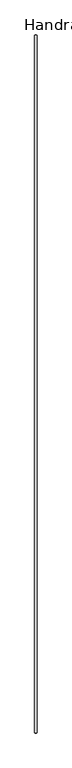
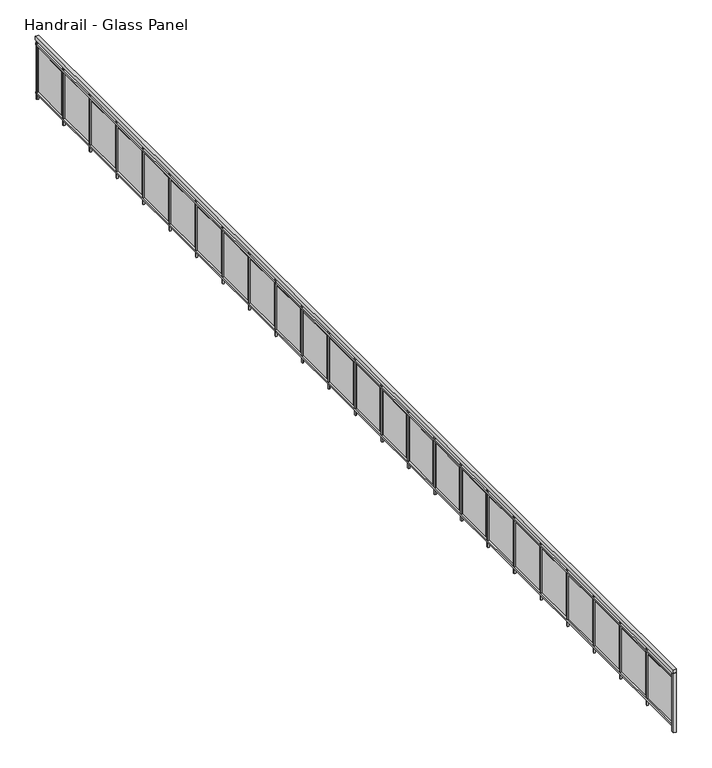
"""IFC4 building model written with IfcOpenShell, lengths in millimetres: railing geometry, Handrail - Glass Panel."""

import ifcopenshell
import ifcopenshell.guid

model = None  # the IFC model being written
_history = None  # IfcOwnerHistory: only IFC2X3 demands one
_inside = {}  # id of a spatial element -> (the spatial element, [elements in it])
_under = {}  # id of a project, library or spatial element -> (it, [spatial elements below it])
_declared = {}  # id of a project -> (the project, [libraries it declares])
_typed = {}  # id of a type object -> (the type object, [elements of that type])
_made_of = {}  # id of a material, layer set ... -> (it, [elements and type objects made of it])


def new_model(schema):
    """Start an empty IFC model of exactly this schema.

    Asked for "IFC4X3", IfcOpenShell would pick the latest addendum, in which some entities
    have other attributes; the version numbers below select the first issue.
    IFC2X3 requires an IfcOwnerHistory on every rooted entity: one is made here for all.
    """
    global model, _history
    if schema == "IFC4X3":
        model = ifcopenshell.file(schema_version=(4, 3, 0, 0))
    else:
        model = ifcopenshell.file(schema=schema)
    _inside.clear()
    _under.clear()
    _declared.clear()
    _typed.clear()
    _made_of.clear()
    _history = None
    if model.schema == "IFC2X3":
        org = make("IfcOrganization", Name="unknown")
        user = make(
            "IfcPersonAndOrganization",
            ThePerson=make("IfcPerson", FamilyName="unknown"),
            TheOrganization=org,
        )
        app = make(
            "IfcApplication",
            ApplicationDeveloper=org,
            Version="unknown",
            ApplicationFullName="unknown",
            ApplicationIdentifier="unknown",
        )
        _history = make(
            "IfcOwnerHistory",
            OwningUser=user,
            OwningApplication=app,
            ChangeAction="ADDED",
            CreationDate=0,
        )
    return model


def make(cls, **values):
    """One entity of the class cls with the attributes given. An attribute that is None is left unset."""
    return model.create_entity(
        cls, **{name: value for name, value in values.items() if value is not None}
    )


def rooted(cls, **values):
    """An entity with a GlobalId (a new one), such as an element, a storey or a relation."""
    return make(cls, GlobalId=ifcopenshell.guid.new(), OwnerHistory=_history, **values)


def si_unit(unit_type, name, prefix=None):
    """IfcSIUnit, for example si_unit("LENGTHUNIT", "METRE", prefix="MILLI")."""
    return make("IfcSIUnit", UnitType=unit_type, Prefix=prefix, Name=name)


def assignment(units):
    """IfcUnitAssignment: the units of a project."""
    return None if units is None else make("IfcUnitAssignment", Units=units)


def point(xyz):
    """IfcCartesianPoint."""
    return None if xyz is None else make("IfcCartesianPoint", Coordinates=xyz)


def direction(xyz):
    """IfcDirection."""
    return None if xyz is None else make("IfcDirection", DirectionRatios=xyz)


def frame(location, z_axis=None, x_axis=None):
    """IfcAxis2Placement3D, a coordinate frame: its origin and axes. An axis left out is left unset."""
    return make(
        "IfcAxis2Placement3D",
        Location=point(location),
        Axis=direction(z_axis),
        RefDirection=direction(x_axis),
    )


def frame_2d(location, x_axis=None):
    """IfcAxis2Placement2D, a coordinate frame in the plane: its origin and x axis."""
    return make(
        "IfcAxis2Placement2D", Location=point(location), RefDirection=direction(x_axis)
    )


def origin():
    """The frame at (0, 0, 0) with its axes left unset."""
    return frame((0.0, 0.0, 0.0))


def place(relative_to, where):
    """IfcLocalPlacement: puts the frame where relative to a parent placement (None: the world)."""
    return make(
        "IfcLocalPlacement", PlacementRelTo=relative_to, RelativePlacement=where
    )


def context(
    kind, dimensions, precision=None, world=None, true_north=None, identifier=None
):
    """IfcGeometricRepresentationContext, for example the 3D "Model" context."""
    return make(
        "IfcGeometricRepresentationContext",
        ContextIdentifier=identifier,
        ContextType=kind,
        CoordinateSpaceDimension=dimensions,
        Precision=precision,
        WorldCoordinateSystem=world,
        TrueNorth=true_north,
    )


def project(units=None, contexts=None):
    """IfcProject with its units and contexts."""
    return rooted(
        "IfcProject",
        Name="project",
        RepresentationContexts=contexts,
        UnitsInContext=assignment(units),
    )


def spatial(cls, under=None, at=None, **own):
    """A site, building, storey or space (cls), placed at a placement, below another one or the project."""
    s = rooted(cls, ObjectPlacement=at, **own)
    if under is not None:
        _under.setdefault(under.id(), (under, []))[1].append(s)
    return s


def polyline(points):
    """IfcPolyline through the points."""
    return make("IfcPolyline", Points=[point(p) for p in points])


def circle_curve(where, radius):
    """IfcCircle in the frame where."""
    return make("IfcCircle", Position=where, Radius=radius)


def trimmed(basis, trim1, trim2, sense, master):
    """IfcTrimmedCurve: the piece of a basis curve between two trims."""
    return make(
        "IfcTrimmedCurve",
        BasisCurve=basis,
        Trim1=trim1,
        Trim2=trim2,
        SenseAgreement=sense,
        MasterRepresentation=master,
    )


def segment(curve, same_sense, transition):
    """IfcCompositeCurveSegment."""
    return make(
        "IfcCompositeCurveSegment",
        Transition=transition,
        SameSense=same_sense,
        ParentCurve=curve,
    )


def composite_curve(segments, self_intersect=None):
    """IfcCompositeCurve: segments joined end to end."""
    return make("IfcCompositeCurve", Segments=segments, SelfIntersect=self_intersect)


def outline(outer, holes=None, kind="AREA"):
    """IfcArbitraryClosedProfileDef: a profile drawn as a closed curve; with holes, ...WithVoids."""
    if holes is None:
        return make("IfcArbitraryClosedProfileDef", ProfileType=kind, OuterCurve=outer)
    return make(
        "IfcArbitraryProfileDefWithVoids",
        ProfileType=kind,
        OuterCurve=outer,
        InnerCurves=holes,
    )


def extrude(swept, where, along, depth):
    """IfcExtrudedAreaSolid: the profile swept, set in the frame where, extruded along a direction by depth."""
    return make(
        "IfcExtrudedAreaSolid",
        SweptArea=swept,
        Position=where,
        ExtrudedDirection=direction(along),
        Depth=depth,
    )


def shape(context_of_items, identifier, shape_type, items):
    """IfcShapeRepresentation: the items that make up one representation, for example the "Body"."""
    return make(
        "IfcShapeRepresentation",
        ContextOfItems=context_of_items,
        RepresentationIdentifier=identifier,
        RepresentationType=shape_type,
        Items=items,
    )


def source(mapping_origin, context_of_items, identifier, shape_type, items):
    """IfcRepresentationMap: a shape defined once, which mapped items show again and again."""
    return make(
        "IfcRepresentationMap",
        MappingOrigin=mapping_origin,
        MappedRepresentation=shape(context_of_items, identifier, shape_type, items),
    )


def transform(
    local_origin,
    x_axis=None,
    y_axis=None,
    z_axis=None,
    scale=None,
    scale2=None,
    scale3=None,
    uniform=True,
):
    """IfcCartesianTransformationOperator3D, or its non-uniform kind. x_axis, y_axis, z_axis: its Axis1, 2, 3."""
    if uniform:
        return make(
            "IfcCartesianTransformationOperator3D",
            Axis1=direction(x_axis),
            Axis2=direction(y_axis),
            LocalOrigin=point(local_origin),
            Scale=scale,
            Axis3=direction(z_axis),
        )
    return make(
        "IfcCartesianTransformationOperator3DnonUniform",
        Axis1=direction(x_axis),
        Axis2=direction(y_axis),
        LocalOrigin=point(local_origin),
        Scale=scale,
        Axis3=direction(z_axis),
        Scale2=scale2,
        Scale3=scale3,
    )


def mapped(mapping_source, mapping_target):
    """IfcMappedItem: shows the shape of a source again, moved by a transform."""
    return make(
        "IfcMappedItem", MappingSource=mapping_source, MappingTarget=mapping_target
    )


def made_of(thing, what):
    """Note that an element or type object is made of a material, layer set ...; save() writes the relation."""
    if what is not None:
        _made_of.setdefault(what.id(), (what, []))[1].append(thing)
    return thing


def element(
    cls,
    number,
    at=None,
    inside=None,
    cuts=None,
    type_object=None,
    material=None,
    context=None,
    identifier="Body",
    shape_type=None,
    held_by="IfcProductDefinitionShape",
    body=None,
    shapes=None,
    **own,
):
    """One element of the class cls, such as IfcWall. Its Tag is "e" and its number.

    at: its placement. inside: the storey or other place that contains it. cuts: it is an
    opening in that element (IfcRelVoidsElement). A single representation is given by context,
    identifier, shape_type and body (its items); several are given by shapes. held_by: the class
    of the entity that holds the representations. save() writes the other relations.
    """
    e = rooted(cls, Tag="e%d" % number, ObjectPlacement=at, **own)
    if body is not None:
        shapes = [shape(context, identifier, shape_type, body)]
    if shapes is not None:
        e.Representation = make(held_by, Representations=shapes)
    if inside is not None:
        _inside.setdefault(inside.id(), (inside, []))[1].append(e)
    if cuts is not None:
        rooted(
            "IfcRelVoidsElement", RelatingBuildingElement=cuts, RelatedOpeningElement=e
        )
    if type_object is not None:
        _typed.setdefault(type_object.id(), (type_object, []))[1].append(e)
    return made_of(e, material)


def aggregate(whole, parts):
    """IfcRelAggregates: a whole, such as a stair, and the parts it consists of."""
    return rooted("IfcRelAggregates", RelatingObject=whole, RelatedObjects=parts)


def save(model, path):
    """Write the relations noted so far, then the file.

    IfcRelAggregates (storeys below a building ...), IfcRelContainedInSpatialStructure (elements
    in a storey), IfcRelDefinesByType, IfcRelAssociatesMaterial and IfcRelDeclares: one each for
    every whole, place, type object, material and project.
    """
    for whole, parts in _under.values():
        aggregate(whole, parts)
    for where, things in _inside.values():
        rooted(
            "IfcRelContainedInSpatialStructure",
            RelatedElements=things,
            RelatingStructure=where,
        )
    for kind, things in _typed.values():
        rooted("IfcRelDefinesByType", RelatedObjects=things, RelatingType=kind)
    for what, things in _made_of.values():
        rooted("IfcRelAssociatesMaterial", RelatedObjects=things, RelatingMaterial=what)
    for by, libraries in _declared.values():
        rooted("IfcRelDeclares", RelatingContext=by, RelatedDefinitions=libraries)
    model.write(path)


def handrail_glass_panel_251127b2(model_context):
    return source(origin(), model_context, "Body", "SweptSolid", [
        extrude(outline(polyline([(30113.2134101, -9922.6148653), (30062.4134101, -9922.6148653), (30062.4134101, 5347.3851347), (30113.2134101, 5347.3851347), (30113.2134101, -9922.6148653)])), frame((0.0, 0.0, 5513.6), z_axis=(0.0, 0.0, 1.0), x_axis=(1.0, 0.0, 0.0)), (0.0, 0.0, 1.0), 50.8),
        extrude(outline(polyline([(30100.5134101, -9922.6148653), (30075.1134101, -9922.6148653), (30075.1134101, 5347.3851347), (30100.5134101, 5347.3851347), (30100.5134101, -9922.6148653)])), frame((0.0, 0.0, 5437.4), z_axis=(0.0, 0.0, 1.0), x_axis=(1.0, 0.0, 0.0)), (0.0, 0.0, 1.0), 25.4),
        extrude(outline(polyline([(30100.5134101, -9922.6148653), (30075.1134101, -9922.6148653), (30075.1134101, 5347.3851347), (30100.5134101, 5347.3851347), (30100.5134101, -9922.6148653)])), frame((0.0, 0.0, 4726.2), z_axis=(0.0, 0.0, 1.0), x_axis=(1.0, 0.0, 0.0)), (0.0, 0.0, 1.0), 25.4),
        extrude(outline(polyline([(30097.3384101, 5322.8601347), (30078.2884101, 5322.8601347), (30078.2884101, 5341.9101347), (30097.3384101, 5341.9101347), (30097.3384101, 5322.8601347)])), frame((0.0, 0.0, 4650.0), z_axis=(0.0, 0.0, 1.0), x_axis=(1.0, 0.0, 0.0)), (0.0, 0.0, 1.0), 863.6),
        extrude(outline(polyline([(30081.4634101, 4735.4851347), (30081.4634101, 5294.2851347), (30087.8134101, 5294.2851347), (30087.8134101, 4735.4851347), (30081.4634101, 4735.4851347)])), frame((0.0, 0.0, 4777.0), z_axis=(0.0, 0.0, 1.0), x_axis=(1.0, 0.0, 0.0)), (0.0, 0.0, 1.0), 635.0),
        extrude(outline(polyline([(30097.3384101, 4687.8601347), (30078.2884101, 4687.8601347), (30078.2884101, 4706.9101347), (30097.3384101, 4706.9101347), (30097.3384101, 4687.8601347)])), frame((0.0, 0.0, 4650.0), z_axis=(0.0, 0.0, 1.0), x_axis=(1.0, 0.0, 0.0)), (0.0, 0.0, 1.0), 863.6),
        extrude(outline(polyline([(30081.4634101, 4100.4851347), (30081.4634101, 4659.2851347), (30087.8134101, 4659.2851347), (30087.8134101, 4100.4851347), (30081.4634101, 4100.4851347)])), frame((0.0, 0.0, 4777.0), z_axis=(0.0, 0.0, 1.0), x_axis=(1.0, 0.0, 0.0)), (0.0, 0.0, 1.0), 635.0),
        extrude(outline(polyline([(30097.3384101, 4052.8601347), (30078.2884101, 4052.8601347), (30078.2884101, 4071.9101347), (30097.3384101, 4071.9101347), (30097.3384101, 4052.8601347)])), frame((0.0, 0.0, 4650.0), z_axis=(0.0, 0.0, 1.0), x_axis=(1.0, 0.0, 0.0)), (0.0, 0.0, 1.0), 863.6),
        extrude(outline(polyline([(30081.4634101, 3465.4851347), (30081.4634101, 4024.2851347), (30087.8134101, 4024.2851347), (30087.8134101, 3465.4851347), (30081.4634101, 3465.4851347)])), frame((0.0, 0.0, 4777.0), z_axis=(0.0, 0.0, 1.0), x_axis=(1.0, 0.0, 0.0)), (0.0, 0.0, 1.0), 635.0),
        extrude(outline(polyline([(30097.3384101, 3417.8601347), (30078.2884101, 3417.8601347), (30078.2884101, 3436.9101347), (30097.3384101, 3436.9101347), (30097.3384101, 3417.8601347)])), frame((0.0, 0.0, 4650.0), z_axis=(0.0, 0.0, 1.0), x_axis=(1.0, 0.0, 0.0)), (0.0, 0.0, 1.0), 863.6),
        extrude(outline(polyline([(30081.4634101, 2830.4851347), (30081.4634101, 3389.2851347), (30087.8134101, 3389.2851347), (30087.8134101, 2830.4851347), (30081.4634101, 2830.4851347)])), frame((0.0, 0.0, 4777.0), z_axis=(0.0, 0.0, 1.0), x_axis=(1.0, 0.0, 0.0)), (0.0, 0.0, 1.0), 635.0),
        extrude(outline(polyline([(30097.3384101, 2782.8601347), (30078.2884101, 2782.8601347), (30078.2884101, 2801.9101347), (30097.3384101, 2801.9101347), (30097.3384101, 2782.8601347)])), frame((0.0, 0.0, 4650.0), z_axis=(0.0, 0.0, 1.0), x_axis=(1.0, 0.0, 0.0)), (0.0, 0.0, 1.0), 863.6),
        extrude(outline(polyline([(30081.4634101, 2195.4851347), (30081.4634101, 2754.2851347), (30087.8134101, 2754.2851347), (30087.8134101, 2195.4851347), (30081.4634101, 2195.4851347)])), frame((0.0, 0.0, 4777.0), z_axis=(0.0, 0.0, 1.0), x_axis=(1.0, 0.0, 0.0)), (0.0, 0.0, 1.0), 635.0),
        extrude(outline(polyline([(30097.3384101, 2147.8601347), (30078.2884101, 2147.8601347), (30078.2884101, 2166.9101347), (30097.3384101, 2166.9101347), (30097.3384101, 2147.8601347)])), frame((0.0, 0.0, 4650.0), z_axis=(0.0, 0.0, 1.0), x_axis=(1.0, 0.0, 0.0)), (0.0, 0.0, 1.0), 863.6),
        extrude(outline(polyline([(30081.4634101, 1560.4851347), (30081.4634101, 2119.2851347), (30087.8134101, 2119.2851347), (30087.8134101, 1560.4851347), (30081.4634101, 1560.4851347)])), frame((0.0, 0.0, 4777.0), z_axis=(0.0, 0.0, 1.0), x_axis=(1.0, 0.0, 0.0)), (0.0, 0.0, 1.0), 635.0),
        extrude(outline(polyline([(30097.3384101, 1512.8601347), (30078.2884101, 1512.8601347), (30078.2884101, 1531.9101347), (30097.3384101, 1531.9101347), (30097.3384101, 1512.8601347)])), frame((0.0, 0.0, 4650.0), z_axis=(0.0, 0.0, 1.0), x_axis=(1.0, 0.0, 0.0)), (0.0, 0.0, 1.0), 863.6),
        extrude(outline(polyline([(30081.4634101, 925.4851347), (30081.4634101, 1484.2851347), (30087.8134101, 1484.2851347), (30087.8134101, 925.4851347), (30081.4634101, 925.4851347)])), frame((0.0, 0.0, 4777.0), z_axis=(0.0, 0.0, 1.0), x_axis=(1.0, 0.0, 0.0)), (0.0, 0.0, 1.0), 635.0),
        extrude(outline(polyline([(30097.3384101, 877.8601347), (30078.2884101, 877.8601347), (30078.2884101, 896.9101347), (30097.3384101, 896.9101347), (30097.3384101, 877.8601347)])), frame((0.0, 0.0, 4650.0), z_axis=(0.0, 0.0, 1.0), x_axis=(1.0, 0.0, 0.0)), (0.0, 0.0, 1.0), 863.6),
        extrude(outline(polyline([(30081.4634101, 290.4851347), (30081.4634101, 849.2851347), (30087.8134101, 849.2851347), (30087.8134101, 290.4851347), (30081.4634101, 290.4851347)])), frame((0.0, 0.0, 4777.0), z_axis=(0.0, 0.0, 1.0), x_axis=(1.0, 0.0, 0.0)), (0.0, 0.0, 1.0), 635.0),
        extrude(outline(polyline([(30097.3384101, 242.8601347), (30078.2884101, 242.8601347), (30078.2884101, 261.9101347), (30097.3384101, 261.9101347), (30097.3384101, 242.8601347)])), frame((0.0, 0.0, 4650.0), z_axis=(0.0, 0.0, 1.0), x_axis=(1.0, 0.0, 0.0)), (0.0, 0.0, 1.0), 863.6),
        extrude(outline(polyline([(30081.4634101, -344.5148653), (30081.4634101, 214.2851347), (30087.8134101, 214.2851347), (30087.8134101, -344.5148653), (30081.4634101, -344.5148653)])), frame((0.0, 0.0, 4777.0), z_axis=(0.0, 0.0, 1.0), x_axis=(1.0, 0.0, 0.0)), (0.0, 0.0, 1.0), 635.0),
        extrude(outline(polyline([(30097.3384101, -392.1398653), (30078.2884101, -392.1398653), (30078.2884101, -373.0898653), (30097.3384101, -373.0898653), (30097.3384101, -392.1398653)])), frame((0.0, 0.0, 4650.0), z_axis=(0.0, 0.0, 1.0), x_axis=(1.0, 0.0, 0.0)), (0.0, 0.0, 1.0), 863.6),
        extrude(outline(polyline([(30081.4634101, -979.5148653), (30081.4634101, -420.7148653), (30087.8134101, -420.7148653), (30087.8134101, -979.5148653), (30081.4634101, -979.5148653)])), frame((0.0, 0.0, 4777.0), z_axis=(0.0, 0.0, 1.0), x_axis=(1.0, 0.0, 0.0)), (0.0, 0.0, 1.0), 635.0),
        extrude(outline(polyline([(30097.3384101, -1027.1398653), (30078.2884101, -1027.1398653), (30078.2884101, -1008.0898653), (30097.3384101, -1008.0898653), (30097.3384101, -1027.1398653)])), frame((0.0, 0.0, 4650.0), z_axis=(0.0, 0.0, 1.0), x_axis=(1.0, 0.0, 0.0)), (0.0, 0.0, 1.0), 863.6),
        extrude(outline(polyline([(30081.4634101, -1614.5148653), (30081.4634101, -1055.7148653), (30087.8134101, -1055.7148653), (30087.8134101, -1614.5148653), (30081.4634101, -1614.5148653)])), frame((0.0, 0.0, 4777.0), z_axis=(0.0, 0.0, 1.0), x_axis=(1.0, 0.0, 0.0)), (0.0, 0.0, 1.0), 635.0),
        extrude(outline(polyline([(30097.3384101, -1662.1398653), (30078.2884101, -1662.1398653), (30078.2884101, -1643.0898653), (30097.3384101, -1643.0898653), (30097.3384101, -1662.1398653)])), frame((0.0, 0.0, 4650.0), z_axis=(0.0, 0.0, 1.0), x_axis=(1.0, 0.0, 0.0)), (0.0, 0.0, 1.0), 863.6),
        extrude(outline(polyline([(30081.4634101, -2249.5148653), (30081.4634101, -1690.7148653), (30087.8134101, -1690.7148653), (30087.8134101, -2249.5148653), (30081.4634101, -2249.5148653)])), frame((0.0, 0.0, 4777.0), z_axis=(0.0, 0.0, 1.0), x_axis=(1.0, 0.0, 0.0)), (0.0, 0.0, 1.0), 635.0),
        extrude(outline(polyline([(30097.3384101, -2297.1398653), (30078.2884101, -2297.1398653), (30078.2884101, -2278.0898653), (30097.3384101, -2278.0898653), (30097.3384101, -2297.1398653)])), frame((0.0, 0.0, 4650.0), z_axis=(0.0, 0.0, 1.0), x_axis=(1.0, 0.0, 0.0)), (0.0, 0.0, 1.0), 863.6),
        extrude(outline(polyline([(30081.4634101, -2884.5148653), (30081.4634101, -2325.7148653), (30087.8134101, -2325.7148653), (30087.8134101, -2884.5148653), (30081.4634101, -2884.5148653)])), frame((0.0, 0.0, 4777.0), z_axis=(0.0, 0.0, 1.0), x_axis=(1.0, 0.0, 0.0)), (0.0, 0.0, 1.0), 635.0),
        extrude(outline(polyline([(30097.3384101, -2932.1398653), (30078.2884101, -2932.1398653), (30078.2884101, -2913.0898653), (30097.3384101, -2913.0898653), (30097.3384101, -2932.1398653)])), frame((0.0, 0.0, 4650.0), z_axis=(0.0, 0.0, 1.0), x_axis=(1.0, 0.0, 0.0)), (0.0, 0.0, 1.0), 863.6),
        extrude(outline(polyline([(30081.4634101, -3519.5148653), (30081.4634101, -2960.7148653), (30087.8134101, -2960.7148653), (30087.8134101, -3519.5148653), (30081.4634101, -3519.5148653)])), frame((0.0, 0.0, 4777.0), z_axis=(0.0, 0.0, 1.0), x_axis=(1.0, 0.0, 0.0)), (0.0, 0.0, 1.0), 635.0),
        extrude(outline(polyline([(30097.3384101, -3567.1398653), (30078.2884101, -3567.1398653), (30078.2884101, -3548.0898653), (30097.3384101, -3548.0898653), (30097.3384101, -3567.1398653)])), frame((0.0, 0.0, 4650.0), z_axis=(0.0, 0.0, 1.0), x_axis=(1.0, 0.0, 0.0)), (0.0, 0.0, 1.0), 863.6),
        extrude(outline(polyline([(30081.4634101, -4154.5148653), (30081.4634101, -3595.7148653), (30087.8134101, -3595.7148653), (30087.8134101, -4154.5148653), (30081.4634101, -4154.5148653)])), frame((0.0, 0.0, 4777.0), z_axis=(0.0, 0.0, 1.0), x_axis=(1.0, 0.0, 0.0)), (0.0, 0.0, 1.0), 635.0),
        extrude(outline(polyline([(30097.3384101, -4202.1398653), (30078.2884101, -4202.1398653), (30078.2884101, -4183.0898653), (30097.3384101, -4183.0898653), (30097.3384101, -4202.1398653)])), frame((0.0, 0.0, 4650.0), z_axis=(0.0, 0.0, 1.0), x_axis=(1.0, 0.0, 0.0)), (0.0, 0.0, 1.0), 863.6),
        extrude(outline(polyline([(30081.4634101, -4789.5148653), (30081.4634101, -4230.7148653), (30087.8134101, -4230.7148653), (30087.8134101, -4789.5148653), (30081.4634101, -4789.5148653)])), frame((0.0, 0.0, 4777.0), z_axis=(0.0, 0.0, 1.0), x_axis=(1.0, 0.0, 0.0)), (0.0, 0.0, 1.0), 635.0),
        extrude(outline(polyline([(30097.3384101, -4837.1398653), (30078.2884101, -4837.1398653), (30078.2884101, -4818.0898653), (30097.3384101, -4818.0898653), (30097.3384101, -4837.1398653)])), frame((0.0, 0.0, 4650.0), z_axis=(0.0, 0.0, 1.0), x_axis=(1.0, 0.0, 0.0)), (0.0, 0.0, 1.0), 863.6),
        extrude(outline(polyline([(30081.4634101, -5424.5148653), (30081.4634101, -4865.7148653), (30087.8134101, -4865.7148653), (30087.8134101, -5424.5148653), (30081.4634101, -5424.5148653)])), frame((0.0, 0.0, 4777.0), z_axis=(0.0, 0.0, 1.0), x_axis=(1.0, 0.0, 0.0)), (0.0, 0.0, 1.0), 635.0),
        extrude(outline(polyline([(30097.3384101, -5472.1398653), (30078.2884101, -5472.1398653), (30078.2884101, -5453.0898653), (30097.3384101, -5453.0898653), (30097.3384101, -5472.1398653)])), frame((0.0, 0.0, 4650.0), z_axis=(0.0, 0.0, 1.0), x_axis=(1.0, 0.0, 0.0)), (0.0, 0.0, 1.0), 863.6),
        extrude(outline(polyline([(30081.4634101, -6059.5148653), (30081.4634101, -5500.7148653), (30087.8134101, -5500.7148653), (30087.8134101, -6059.5148653), (30081.4634101, -6059.5148653)])), frame((0.0, 0.0, 4777.0), z_axis=(0.0, 0.0, 1.0), x_axis=(1.0, 0.0, 0.0)), (0.0, 0.0, 1.0), 635.0),
        extrude(outline(polyline([(30097.3384101, -6107.1398653), (30078.2884101, -6107.1398653), (30078.2884101, -6088.0898653), (30097.3384101, -6088.0898653), (30097.3384101, -6107.1398653)])), frame((0.0, 0.0, 4650.0), z_axis=(0.0, 0.0, 1.0), x_axis=(1.0, 0.0, 0.0)), (0.0, 0.0, 1.0), 863.6),
        extrude(outline(polyline([(30081.4634101, -6694.5148653), (30081.4634101, -6135.7148653), (30087.8134101, -6135.7148653), (30087.8134101, -6694.5148653), (30081.4634101, -6694.5148653)])), frame((0.0, 0.0, 4777.0), z_axis=(0.0, 0.0, 1.0), x_axis=(1.0, 0.0, 0.0)), (0.0, 0.0, 1.0), 635.0),
        extrude(outline(polyline([(30097.3384101, -6742.1398653), (30078.2884101, -6742.1398653), (30078.2884101, -6723.0898653), (30097.3384101, -6723.0898653), (30097.3384101, -6742.1398653)])), frame((0.0, 0.0, 4650.0), z_axis=(0.0, 0.0, 1.0), x_axis=(1.0, 0.0, 0.0)), (0.0, 0.0, 1.0), 863.6),
        extrude(outline(polyline([(30081.4634101, -7329.5148653), (30081.4634101, -6770.7148653), (30087.8134101, -6770.7148653), (30087.8134101, -7329.5148653), (30081.4634101, -7329.5148653)])), frame((0.0, 0.0, 4777.0), z_axis=(0.0, 0.0, 1.0), x_axis=(1.0, 0.0, 0.0)), (0.0, 0.0, 1.0), 635.0),
        extrude(outline(polyline([(30097.3384101, -7377.1398653), (30078.2884101, -7377.1398653), (30078.2884101, -7358.0898653), (30097.3384101, -7358.0898653), (30097.3384101, -7377.1398653)])), frame((0.0, 0.0, 4650.0), z_axis=(0.0, 0.0, 1.0), x_axis=(1.0, 0.0, 0.0)), (0.0, 0.0, 1.0), 863.6),
        extrude(outline(polyline([(30081.4634101, -7964.5148653), (30081.4634101, -7405.7148653), (30087.8134101, -7405.7148653), (30087.8134101, -7964.5148653), (30081.4634101, -7964.5148653)])), frame((0.0, 0.0, 4777.0), z_axis=(0.0, 0.0, 1.0), x_axis=(1.0, 0.0, 0.0)), (0.0, 0.0, 1.0), 635.0),
        extrude(outline(polyline([(30097.3384101, -8012.1398653), (30078.2884101, -8012.1398653), (30078.2884101, -7993.0898653), (30097.3384101, -7993.0898653), (30097.3384101, -8012.1398653)])), frame((0.0, 0.0, 4650.0), z_axis=(0.0, 0.0, 1.0), x_axis=(1.0, 0.0, 0.0)), (0.0, 0.0, 1.0), 863.6),
        extrude(outline(polyline([(30081.4634101, -8599.5148653), (30081.4634101, -8040.7148653), (30087.8134101, -8040.7148653), (30087.8134101, -8599.5148653), (30081.4634101, -8599.5148653)])), frame((0.0, 0.0, 4777.0), z_axis=(0.0, 0.0, 1.0), x_axis=(1.0, 0.0, 0.0)), (0.0, 0.0, 1.0), 635.0),
        extrude(outline(polyline([(30097.3384101, -8647.1398653), (30078.2884101, -8647.1398653), (30078.2884101, -8628.0898653), (30097.3384101, -8628.0898653), (30097.3384101, -8647.1398653)])), frame((0.0, 0.0, 4650.0), z_axis=(0.0, 0.0, 1.0), x_axis=(1.0, 0.0, 0.0)), (0.0, 0.0, 1.0), 863.6),
        extrude(outline(polyline([(30081.4634101, -9234.5148653), (30081.4634101, -8675.7148653), (30087.8134101, -8675.7148653), (30087.8134101, -9234.5148653), (30081.4634101, -9234.5148653)])), frame((0.0, 0.0, 4777.0), z_axis=(0.0, 0.0, 1.0), x_axis=(1.0, 0.0, 0.0)), (0.0, 0.0, 1.0), 635.0),
        extrude(outline(polyline([(30097.3384101, -9282.1398653), (30078.2884101, -9282.1398653), (30078.2884101, -9263.0898653), (30097.3384101, -9263.0898653), (30097.3384101, -9282.1398653)])), frame((0.0, 0.0, 4650.0), z_axis=(0.0, 0.0, 1.0), x_axis=(1.0, 0.0, 0.0)), (0.0, 0.0, 1.0), 863.6),
        extrude(outline(polyline([(30081.4634101, -9869.5148653), (30081.4634101, -9310.7148653), (30087.8134101, -9310.7148653), (30087.8134101, -9869.5148653), (30081.4634101, -9869.5148653)])), frame((0.0, 0.0, 4777.0), z_axis=(0.0, 0.0, 1.0), x_axis=(1.0, 0.0, 0.0)), (0.0, 0.0, 1.0), 635.0),
        extrude(outline(polyline([(30097.3384101, -9917.1398653), (30078.2884101, -9917.1398653), (30078.2884101, -9898.0898653), (30097.3384101, -9898.0898653), (30097.3384101, -9917.1398653)])), frame((0.0, 0.0, 4650.0), z_axis=(0.0, 0.0, 1.0), x_axis=(1.0, 0.0, 0.0)), (0.0, 0.0, 1.0), 863.6),
        extrude(outline(composite_curve([segment(trimmed(circle_curve(frame_2d((30087.8134101, 5337.8601347)), 12.7), [point((30075.1134101, 5337.8601347))], [point((30100.5134101, 5337.8601347))], False, "CARTESIAN"), True, "CONTINUOUS"), segment(trimmed(circle_curve(frame_2d((30087.8134101, 5337.8601347)), 12.7), [point((30100.5134101, 5337.8601347))], [point((30075.1134101, 5337.8601347))], False, "CARTESIAN"), True, "CONTINUOUS")], self_intersect=False)), frame((0.0, 0.0, 4650.0), z_axis=(0.0, 0.0, 1.0), x_axis=(1.0, 0.0, 0.0)), (0.0, 0.0, 1.0), 863.6),
        extrude(outline(polyline([(30106.8634101, -9932.1398653), (30068.7634101, -9932.1398653), (30068.7634101, -9894.0398653), (30106.8634101, -9894.0398653), (30106.8634101, -9932.1398653)])), frame((0.0, 0.0, 4650.0), z_axis=(0.0, 0.0, 1.0), x_axis=(1.0, 0.0, 0.0)), (0.0, 0.0, 1.0), 863.6),
    ])


if __name__ == "__main__":
    model = new_model("IFC4")
    model_context = context("Model", 3, world=origin())
    ifc_project = project(units=[si_unit("LENGTHUNIT", "METRE", prefix="MILLI")], contexts=[model_context])
    site = spatial("IfcSite", under=ifc_project)
    building = spatial("IfcBuilding", under=site)
    placement = place(None, origin())
    handrail_glass_panel_shape = handrail_glass_panel_251127b2(model_context)
    element("IfcRailing", 1, ObjectType="Handrail - Glass Panel", at=placement, inside=building, context=model_context, shape_type="MappedRepresentation", body=[
        mapped(handrail_glass_panel_shape, transform((0.0, 0.0, 0.0), x_axis=(1.0, 0.0, 0.0), y_axis=(0.0, 1.0, 0.0), z_axis=(0.0, 0.0, 1.0))),
    ])
    save(model, "model.ifc")
